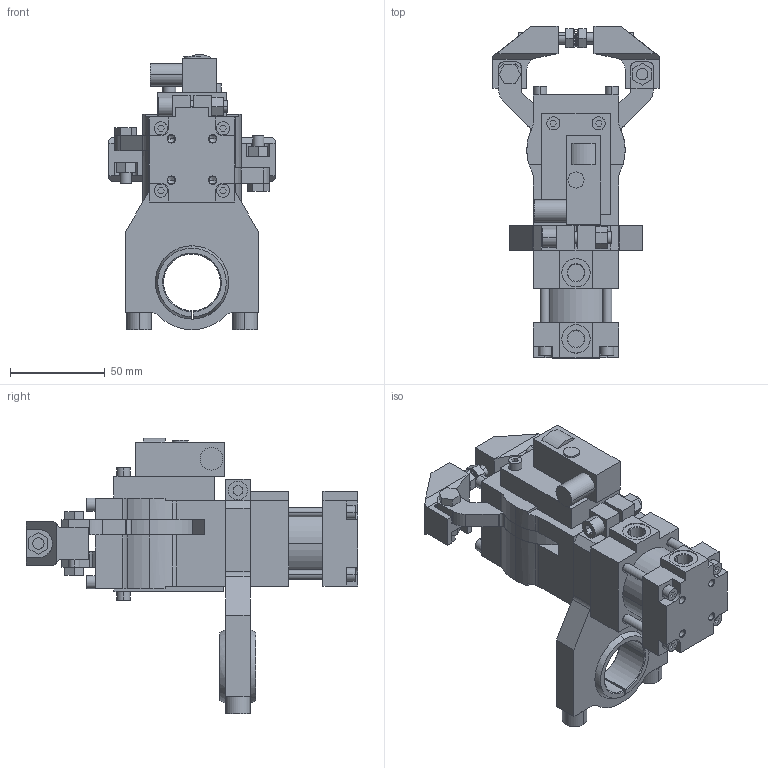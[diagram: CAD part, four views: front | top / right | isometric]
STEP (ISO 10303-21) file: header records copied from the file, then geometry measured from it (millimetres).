
FILE_DESCRIPTION (( 'STEP AP214' ), '1' );
FILE_NAME ('b32_b1sx_pla___a_b30.STEP', '2018-05-08T12:55:54', ( 'vepadmin' ), ( 'Hewlett-Packard Company' ), 'SwSTEP 2.0', 'SolidWorks 2018', '' );
FILE_SCHEMA (( 'AUTOMOTIVE_DESIGN' ));
Length unit declared in the file: millimetre
Products named in the file (11): gruppo_montante_b32b; b32_b1sx_pla___a_b30; tassello_b1_b32b; calotta_sferica_30_b32; piedino_zigrinato_M6x25; gruppo_cilindro_b32; riparo_micro_b32; blocchetto_p&f_90; scatola_micro_b32; attacco_snodo_b30_b32; leva_b32b
Assembly tree (13 placements, depth 2):
  b32_b1sx_pla___a_b30
    gruppo_montante_b32b
    leva_b32b  x2
    attacco_snodo_b30_b32
    scatola_micro_b32
    blocchetto_p&f_90
    riparo_micro_b32
    gruppo_cilindro_b32
    piedino_zigrinato_M6x25  x2
    calotta_sferica_30_b32
    tassello_b1_b32b  x2
Bounding box: 88 x 175.5 x 145.6 mm (x, y, z)
Volume: 389156.5 mm3; surface area: 112699.4 mm2
Topology: 13 solids, 13 shells, 872 faces, 2143 edges, 1395 vertices
Faces by surface type: plane 615, cylinder 225, cone 28, sphere 4
Entity records: 20010 total; most frequent: CARTESIAN_POINT 3550, DIRECTION 3315, ORIENTED_EDGE 3264, EDGE_CURVE 1632, VECTOR 1203, LINE 1203, VERTEX_POINT 1067, AXIS2_PLACEMENT_3D 1056
